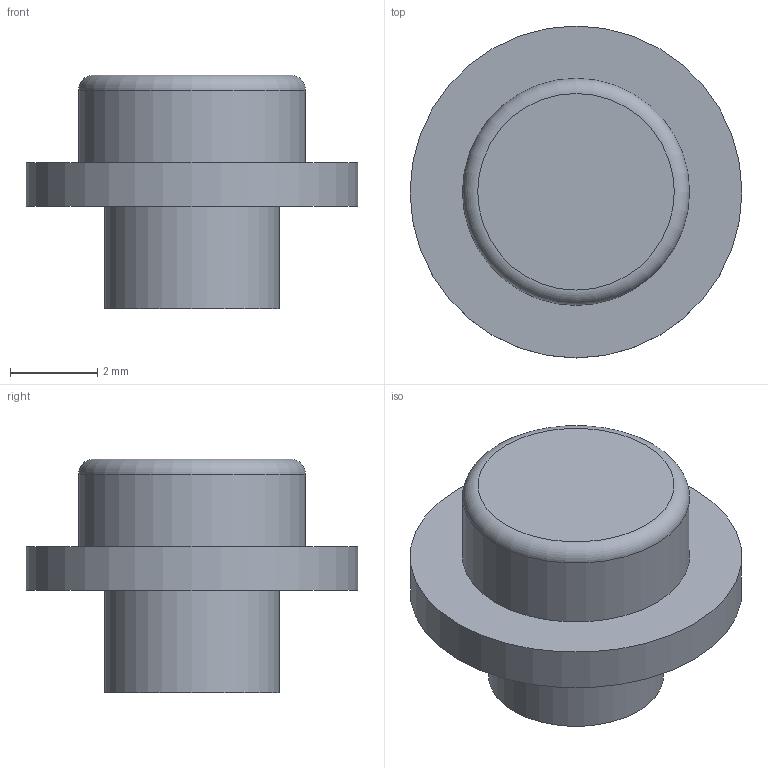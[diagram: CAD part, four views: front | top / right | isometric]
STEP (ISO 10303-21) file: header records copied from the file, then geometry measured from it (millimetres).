
FILE_DESCRIPTION(('Open CASCADE Model'),'2;1');
FILE_NAME('Open CASCADE Shape Model','2026-09-28T00:01:43',('Author'),( 'Open CASCADE'),'Open CASCADE STEP processor 7.8','Open CASCADE 7.8' ,'Unknown');
FILE_SCHEMA(('AUTOMOTIVE_DESIGN { 1 0 10303 214 1 1 1 1 }'));
Length unit declared in the file: millimetre
Products named in the file (1): Open CASCADE STEP translator 7.8 3
Bounding box: 7.6 x 7.6 x 5.35 mm (x, y, z)
Volume: 117 mm3; surface area: 174.3 mm2
Topology: 1 solids, 1 shells, 8 faces, 11 edges, 7 vertices
Faces by surface type: plane 4, cylinder 3, torus 1
Full cylindrical faces by diameter (mm): 4 x1, 5.2 x1, 7.6 x1
Entity records: 328 total; most frequent: DIRECTION 59, CARTESIAN_POINT 49, ORIENTED_EDGE 22, PCURVE 22, DEFINITIONAL_REPRESENTATION 22, LINE 19, VECTOR 19, AXIS2_PLACEMENT_3D 17
